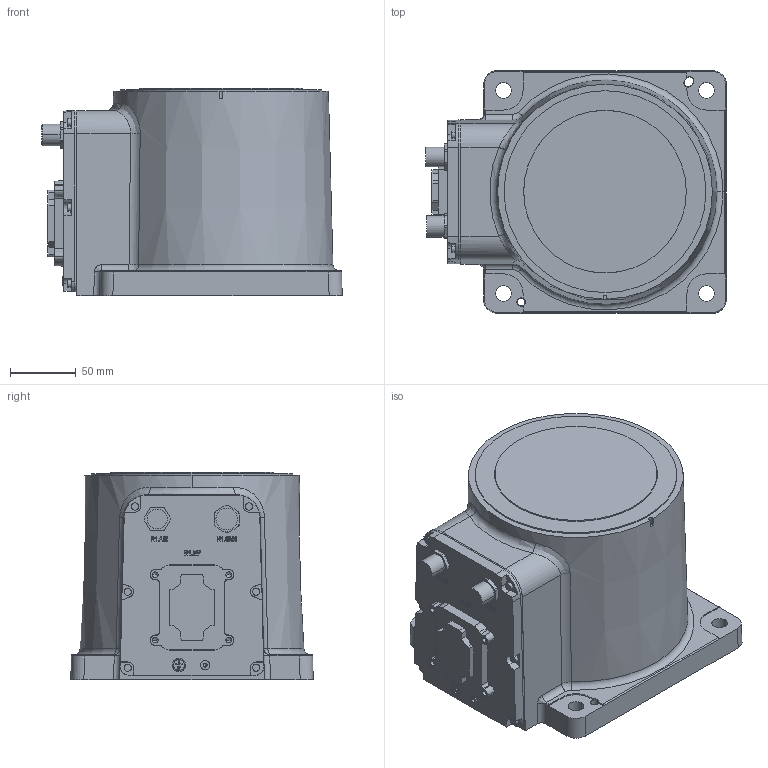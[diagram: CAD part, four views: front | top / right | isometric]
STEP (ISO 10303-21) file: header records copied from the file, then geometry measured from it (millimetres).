
FILE_DESCRIPTION (( 'STEP AP214' ), '1' );
FILE_NAME ('CRB1910_13kg-1340_OmniCore_rev00_Link0.step', '2026-03-26T03:33:39', ( '' ), ( '' ), 'SwSTEP 2.0', 'SolidWorks 2022', '' );
FILE_SCHEMA (( 'AUTOMOTIVE_DESIGN' ));
Length unit declared in the file: millimetre
Products named in the file (1): CRB1910_13kg-1340_OmniCore_rev00_Link0
Bounding box: 229.17 x 184.95 x 158 mm (x, y, z)
Volume: 4310781.1 mm3; surface area: 177760.3 mm2
Topology: 1 solids, 1 shells, 527 faces, 1403 edges, 919 vertices
Faces by surface type: plane 287, cylinder 94, bspline 86, cone 57, torus 3
Entity records: 21240 total; most frequent: CARTESIAN_POINT 8821, ORIENTED_EDGE 2786, DIRECTION 2194, EDGE_CURVE 1393, VERTEX_POINT 919, VECTOR 808, LINE 808, AXIS2_PLACEMENT_3D 693
